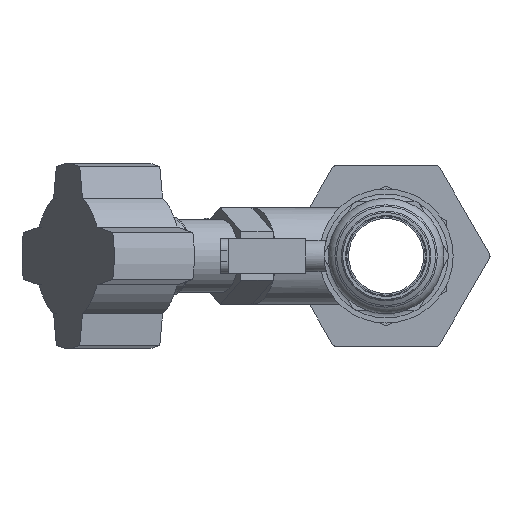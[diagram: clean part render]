
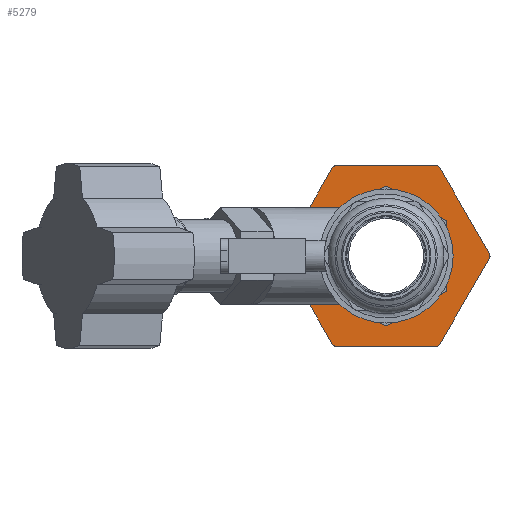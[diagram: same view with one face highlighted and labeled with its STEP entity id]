
A CAD part, left-side view. The second image highlights one B-rep face of the part: STEP entity #5279.
In plain terms, the highlighted planar face has unit normal (-1, 0, 0) as drawn and (1, 0, 0) by its records, which use the part's own axes.
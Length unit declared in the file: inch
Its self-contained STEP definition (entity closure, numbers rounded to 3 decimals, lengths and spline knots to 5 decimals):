
#111=FACE_BOUND('',#645,.T.);
#172=PLANE('',#5784);
#363=FACE_OUTER_BOUND('',#644,.T.);
#644=EDGE_LOOP('',(#3529,#3530,#3531,#3532,#3533,#3534,#3535,#3536,#3537,
#3538,#3539,#3540));
#645=EDGE_LOOP('',(#3541,#3542,#3543,#3544,#3545,#3546,#3547,#3548,#3549,
#3550,#3551,#3552));
#936=LINE('',#7987,#1365);
#941=LINE('',#8005,#1370);
#948=LINE('',#8023,#1377);
#953=LINE('',#8041,#1382);
#959=LINE('',#8056,#1388);
#960=LINE('',#8059,#1389);
#985=LINE('',#8138,#1414);
#988=LINE('',#8146,#1417);
#991=LINE('',#8154,#1420);
#994=LINE('',#8162,#1423);
#997=LINE('',#8170,#1426);
#1000=LINE('',#8177,#1429);
#1365=VECTOR('',#6343,0.3937);
#1370=VECTOR('',#6362,0.3937);
#1377=VECTOR('',#6379,0.3937);
#1382=VECTOR('',#6398,0.3937);
#1388=VECTOR('',#6412,0.3937);
#1389=VECTOR('',#6415,0.3937);
#1414=VECTOR('',#6492,0.3937);
#1417=VECTOR('',#6501,0.3937);
#1420=VECTOR('',#6510,0.3937);
#1423=VECTOR('',#6519,0.3937);
#1426=VECTOR('',#6528,0.3937);
#1429=VECTOR('',#6537,0.3937);
#1787=CIRCLE('',#5712,0.025);
#1791=CIRCLE('',#5720,0.025);
#1795=CIRCLE('',#5727,0.025);
#1797=CIRCLE('',#5732,0.025);
#1801=CIRCLE('',#5739,0.025);
#1803=CIRCLE('',#5744,0.025);
#1817=CIRCLE('',#5767,0.05);
#1818=CIRCLE('',#5770,0.05);
#1819=CIRCLE('',#5773,0.05);
#1820=CIRCLE('',#5776,0.05);
#1821=CIRCLE('',#5779,0.05);
#1822=CIRCLE('',#5782,0.05);
#2092=VERTEX_POINT('',#7962);
#2093=VERTEX_POINT('',#7963);
#2102=VERTEX_POINT('',#7986);
#2104=VERTEX_POINT('',#7992);
#2108=VERTEX_POINT('',#8004);
#2110=VERTEX_POINT('',#8010);
#2114=VERTEX_POINT('',#8022);
#2116=VERTEX_POINT('',#8028);
#2120=VERTEX_POINT('',#8040);
#2122=VERTEX_POINT('',#8046);
#2125=VERTEX_POINT('',#8054);
#2126=VERTEX_POINT('',#8058);
#2152=VERTEX_POINT('',#8131);
#2153=VERTEX_POINT('',#8133);
#2154=VERTEX_POINT('',#8137);
#2155=VERTEX_POINT('',#8141);
#2156=VERTEX_POINT('',#8145);
#2157=VERTEX_POINT('',#8149);
#2158=VERTEX_POINT('',#8153);
#2159=VERTEX_POINT('',#8157);
#2160=VERTEX_POINT('',#8161);
#2161=VERTEX_POINT('',#8165);
#2162=VERTEX_POINT('',#8169);
#2163=VERTEX_POINT('',#8173);
#2608=EDGE_CURVE('',#2092,#2093,#1787,.T.);
#2619=EDGE_CURVE('',#2093,#2102,#936,.T.);
#2622=EDGE_CURVE('',#2102,#2104,#1791,.T.);
#2628=EDGE_CURVE('',#2108,#2092,#941,.T.);
#2631=EDGE_CURVE('',#2110,#2108,#1795,.T.);
#2637=EDGE_CURVE('',#2104,#2114,#948,.T.);
#2640=EDGE_CURVE('',#2114,#2116,#1797,.T.);
#2646=EDGE_CURVE('',#2120,#2110,#953,.T.);
#2649=EDGE_CURVE('',#2122,#2120,#1801,.T.);
#2654=EDGE_CURVE('',#2116,#2125,#959,.T.);
#2655=EDGE_CURVE('',#2126,#2122,#960,.T.);
#2658=EDGE_CURVE('',#2125,#2126,#1803,.T.);
#2693=EDGE_CURVE('',#2153,#2152,#1817,.T.);
#2695=EDGE_CURVE('',#2154,#2153,#985,.T.);
#2697=EDGE_CURVE('',#2155,#2154,#1818,.T.);
#2699=EDGE_CURVE('',#2156,#2155,#988,.T.);
#2701=EDGE_CURVE('',#2157,#2156,#1819,.T.);
#2703=EDGE_CURVE('',#2158,#2157,#991,.T.);
#2705=EDGE_CURVE('',#2159,#2158,#1820,.T.);
#2707=EDGE_CURVE('',#2160,#2159,#994,.T.);
#2709=EDGE_CURVE('',#2161,#2160,#1821,.T.);
#2711=EDGE_CURVE('',#2162,#2161,#997,.T.);
#2713=EDGE_CURVE('',#2163,#2162,#1822,.T.);
#2715=EDGE_CURVE('',#2152,#2163,#1000,.T.);
#3529=ORIENTED_EDGE('',*,*,#2715,.T.);
#3530=ORIENTED_EDGE('',*,*,#2713,.T.);
#3531=ORIENTED_EDGE('',*,*,#2711,.T.);
#3532=ORIENTED_EDGE('',*,*,#2709,.T.);
#3533=ORIENTED_EDGE('',*,*,#2707,.T.);
#3534=ORIENTED_EDGE('',*,*,#2705,.T.);
#3535=ORIENTED_EDGE('',*,*,#2703,.T.);
#3536=ORIENTED_EDGE('',*,*,#2701,.T.);
#3537=ORIENTED_EDGE('',*,*,#2699,.T.);
#3538=ORIENTED_EDGE('',*,*,#2697,.T.);
#3539=ORIENTED_EDGE('',*,*,#2695,.T.);
#3540=ORIENTED_EDGE('',*,*,#2693,.T.);
#3541=ORIENTED_EDGE('',*,*,#2655,.T.);
#3542=ORIENTED_EDGE('',*,*,#2649,.T.);
#3543=ORIENTED_EDGE('',*,*,#2646,.T.);
#3544=ORIENTED_EDGE('',*,*,#2631,.T.);
#3545=ORIENTED_EDGE('',*,*,#2628,.T.);
#3546=ORIENTED_EDGE('',*,*,#2608,.T.);
#3547=ORIENTED_EDGE('',*,*,#2619,.T.);
#3548=ORIENTED_EDGE('',*,*,#2622,.T.);
#3549=ORIENTED_EDGE('',*,*,#2637,.T.);
#3550=ORIENTED_EDGE('',*,*,#2640,.T.);
#3551=ORIENTED_EDGE('',*,*,#2654,.T.);
#3552=ORIENTED_EDGE('',*,*,#2658,.T.);
#5279=ADVANCED_FACE('',(#363,#111),#172,.T.);
#5712=AXIS2_PLACEMENT_3D('',#7964,#6322,#6323);
#5720=AXIS2_PLACEMENT_3D('',#7993,#6348,#6349);
#5727=AXIS2_PLACEMENT_3D('',#8011,#6367,#6368);
#5732=AXIS2_PLACEMENT_3D('',#8029,#6384,#6385);
#5739=AXIS2_PLACEMENT_3D('',#8047,#6403,#6404);
#5744=AXIS2_PLACEMENT_3D('',#8064,#6420,#6421);
#5767=AXIS2_PLACEMENT_3D('',#8134,#6487,#6488);
#5770=AXIS2_PLACEMENT_3D('',#8142,#6496,#6497);
#5773=AXIS2_PLACEMENT_3D('',#8150,#6505,#6506);
#5776=AXIS2_PLACEMENT_3D('',#8158,#6514,#6515);
#5779=AXIS2_PLACEMENT_3D('',#8166,#6523,#6524);
#5782=AXIS2_PLACEMENT_3D('',#8174,#6532,#6533);
#5784=AXIS2_PLACEMENT_3D('',#8178,#6538,#6539);
#6322=DIRECTION('center_axis',(-1.,0.,0.));
#6323=DIRECTION('ref_axis',(0.,-0.5,0.866));
#6343=DIRECTION('',(0.,-0.866,-0.5));
#6348=DIRECTION('center_axis',(-1.,0.,0.));
#6349=DIRECTION('ref_axis',(0.,0.5,0.866));
#6362=DIRECTION('',(0.,0.,-1.));
#6367=DIRECTION('center_axis',(-1.,0.,0.));
#6368=DIRECTION('ref_axis',(0.,-1.,0.));
#6379=DIRECTION('',(0.,-0.866,0.5));
#6384=DIRECTION('center_axis',(-1.,0.,0.));
#6385=DIRECTION('ref_axis',(0.,1.,0.));
#6398=DIRECTION('',(0.,0.866,-0.5));
#6403=DIRECTION('center_axis',(-1.,0.,0.));
#6404=DIRECTION('ref_axis',(0.,-0.5,-0.866));
#6412=DIRECTION('',(0.,0.,1.));
#6415=DIRECTION('',(0.,0.866,0.5));
#6420=DIRECTION('center_axis',(-1.,0.,0.));
#6421=DIRECTION('ref_axis',(0.,0.5,-0.866));
#6487=DIRECTION('center_axis',(1.,0.,0.));
#6488=DIRECTION('ref_axis',(0.,0.,1.));
#6492=DIRECTION('',(0.,1.,0.));
#6496=DIRECTION('center_axis',(1.,0.,0.));
#6497=DIRECTION('ref_axis',(0.,0.866,0.5));
#6501=DIRECTION('',(0.,0.5,-0.866));
#6505=DIRECTION('center_axis',(1.,0.,0.));
#6506=DIRECTION('ref_axis',(0.,0.866,-0.5));
#6510=DIRECTION('',(0.,-0.5,-0.866));
#6514=DIRECTION('center_axis',(1.,0.,0.));
#6515=DIRECTION('ref_axis',(0.,0.,-1.));
#6519=DIRECTION('',(0.,-1.,0.));
#6523=DIRECTION('center_axis',(1.,0.,0.));
#6524=DIRECTION('ref_axis',(0.,-0.866,-0.5));
#6528=DIRECTION('',(0.,-0.5,0.866));
#6532=DIRECTION('center_axis',(1.,0.,0.));
#6533=DIRECTION('ref_axis',(0.,-0.866,0.5));
#6537=DIRECTION('',(0.,0.5,0.866));
#6538=DIRECTION('center_axis',(1.,0.,0.));
#6539=DIRECTION('ref_axis',(0.,0.,-1.));
#7962=CARTESIAN_POINT('',(0.315,0.6575,-0.36517));
#7963=CARTESIAN_POINT('',(0.315,0.645,-0.38682));
#7964=CARTESIAN_POINT('Origin',(0.315,0.6325,-0.36517));
#7986=CARTESIAN_POINT('',(0.315,0.0125,-0.752));
#7987=CARTESIAN_POINT('',(0.315,0.48688,-0.47812));
#7992=CARTESIAN_POINT('',(0.315,-0.0125,-0.752));
#7993=CARTESIAN_POINT('Origin',(0.315,0.,-0.73035));
#8004=CARTESIAN_POINT('',(0.315,0.6575,0.36517));
#8005=CARTESIAN_POINT('',(0.315,0.6575,0.18259));
#8010=CARTESIAN_POINT('',(0.315,0.645,0.38682));
#8011=CARTESIAN_POINT('Origin',(0.315,0.6325,0.36517));
#8022=CARTESIAN_POINT('',(0.315,-0.645,-0.38682));
#8023=CARTESIAN_POINT('',(0.315,-0.17063,-0.66071));
#8028=CARTESIAN_POINT('',(0.315,-0.6575,-0.36517));
#8029=CARTESIAN_POINT('Origin',(0.315,-0.6325,-0.36517));
#8040=CARTESIAN_POINT('',(0.315,0.0125,0.752));
#8041=CARTESIAN_POINT('',(0.315,0.17063,0.66071));
#8046=CARTESIAN_POINT('',(0.315,-0.0125,0.752));
#8047=CARTESIAN_POINT('Origin',(0.315,0.,0.73035));
#8054=CARTESIAN_POINT('',(0.315,-0.6575,0.36517));
#8056=CARTESIAN_POINT('',(0.315,-0.6575,-0.18259));
#8058=CARTESIAN_POINT('',(0.315,-0.645,0.38682));
#8059=CARTESIAN_POINT('',(0.315,-0.48687,0.47812));
#8064=CARTESIAN_POINT('Origin',(0.315,-0.6325,0.36517));
#8131=CARTESIAN_POINT('',(0.315,0.58024,-0.955));
#8133=CARTESIAN_POINT('',(0.315,0.53694,-0.98));
#8134=CARTESIAN_POINT('Origin',(0.315,0.53694,-0.93));
#8137=CARTESIAN_POINT('',(0.315,-0.53694,-0.98));
#8138=CARTESIAN_POINT('',(0.315,0.53694,-0.98));
#8141=CARTESIAN_POINT('',(0.315,-0.58024,-0.955));
#8142=CARTESIAN_POINT('Origin',(0.315,-0.53694,-0.93));
#8145=CARTESIAN_POINT('',(0.315,-1.11717,-0.025));
#8146=CARTESIAN_POINT('',(0.315,-0.58024,-0.955));
#8149=CARTESIAN_POINT('',(0.315,-1.11717,0.025));
#8150=CARTESIAN_POINT('Origin',(0.315,-1.07387,0.));
#8153=CARTESIAN_POINT('',(0.315,-0.58024,0.955));
#8154=CARTESIAN_POINT('',(0.315,-1.11717,0.025));
#8157=CARTESIAN_POINT('',(0.315,-0.53694,0.98));
#8158=CARTESIAN_POINT('Origin',(0.315,-0.53694,0.93));
#8161=CARTESIAN_POINT('',(0.315,0.53694,0.98));
#8162=CARTESIAN_POINT('',(0.315,-0.53694,0.98));
#8165=CARTESIAN_POINT('',(0.315,0.58024,0.955));
#8166=CARTESIAN_POINT('Origin',(0.315,0.53694,0.93));
#8169=CARTESIAN_POINT('',(0.315,1.11717,0.025));
#8170=CARTESIAN_POINT('',(0.315,0.58024,0.955));
#8173=CARTESIAN_POINT('',(0.315,1.11717,-0.025));
#8174=CARTESIAN_POINT('Origin',(0.315,1.07387,0.));
#8177=CARTESIAN_POINT('',(0.315,1.11717,-0.025));
#8178=CARTESIAN_POINT('Origin',(0.315,0.,0.));
